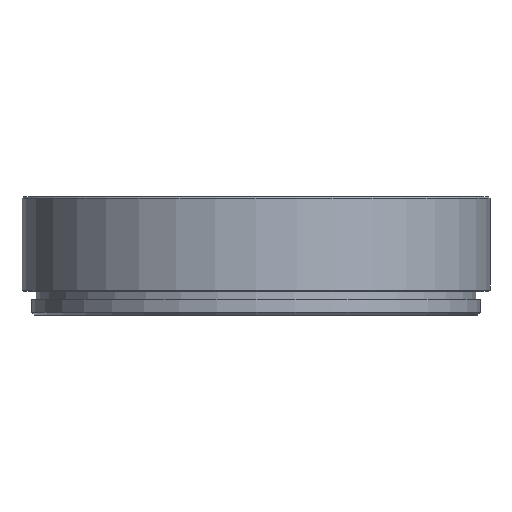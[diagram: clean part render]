
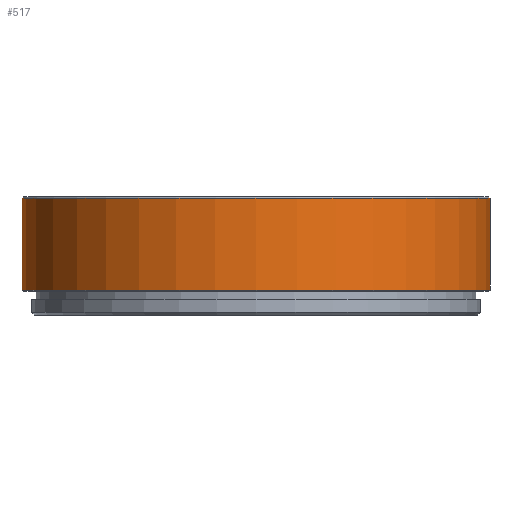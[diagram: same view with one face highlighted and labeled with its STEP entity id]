
A CAD part, front view. The second image highlights one B-rep face of the part: STEP entity #517.
In plain terms, the highlighted cylindrical face has radius 49.5 mm (diameter 99 mm), a partial arc.
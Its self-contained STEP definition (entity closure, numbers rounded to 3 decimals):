
#39 = DIRECTION ( 'NONE',  ( 1., 0., 0. ) ) ;
#42 = CYLINDRICAL_SURFACE ( 'NONE', #615, 49.5 ) ;
#67 = VECTOR ( 'NONE', #232, 1000. ) ;
#110 = CARTESIAN_POINT ( 'NONE',  ( 0., 0., 19.7 ) ) ;
#112 = CARTESIAN_POINT ( 'NONE',  ( -49.5, 0., 0.3 ) ) ;
#125 = EDGE_CURVE ( 'NONE', #439, #294, #198, .T. ) ;
#141 = DIRECTION ( 'NONE',  ( -1., 0., 0. ) ) ;
#181 = AXIS2_PLACEMENT_3D ( 'NONE', #525, #324, #39 ) ;
#184 = ORIENTED_EDGE ( 'NONE', *, *, #125, .T. ) ;
#198 = CIRCLE ( 'NONE', #710, 49.5 ) ;
#220 = LINE ( 'NONE', #364, #67 ) ;
#230 = FACE_OUTER_BOUND ( 'NONE', #369, .T. ) ;
#232 = DIRECTION ( 'NONE',  ( 0., 0., 1. ) ) ;
#238 = ORIENTED_EDGE ( 'NONE', *, *, #547, .T. ) ;
#279 = DIRECTION ( 'NONE',  ( 1., 0., 0. ) ) ;
#294 = VERTEX_POINT ( 'NONE', #769 ) ;
#298 = CARTESIAN_POINT ( 'NONE',  ( 49.5, 0., 23.049 ) ) ;
#303 = DIRECTION ( 'NONE',  ( 0., 0., -1. ) ) ;
#324 = DIRECTION ( 'NONE',  ( 0., 0., 1. ) ) ;
#344 = VECTOR ( 'NONE', #543, 1000. ) ;
#364 = CARTESIAN_POINT ( 'NONE',  ( -49.5, 0., 23.049 ) ) ;
#369 = EDGE_LOOP ( 'NONE', ( #808, #598, #238, #184 ) ) ;
#439 = VERTEX_POINT ( 'NONE', #686 ) ;
#507 = LINE ( 'NONE', #298, #344 ) ;
#517 = ADVANCED_FACE ( 'NONE', ( #230 ), #42, .T. ) ;
#525 = CARTESIAN_POINT ( 'NONE',  ( 0., 0., 0.3 ) ) ;
#543 = DIRECTION ( 'NONE',  ( 0., 0., 1. ) ) ;
#547 = EDGE_CURVE ( 'NONE', #728, #439, #507, .T. ) ;
#598 = ORIENTED_EDGE ( 'NONE', *, *, #663, .T. ) ;
#606 = CIRCLE ( 'NONE', #181, 49.5 ) ;
#615 = AXIS2_PLACEMENT_3D ( 'NONE', #775, #708, #279 ) ;
#663 = EDGE_CURVE ( 'NONE', #816, #728, #606, .T. ) ;
#670 = CARTESIAN_POINT ( 'NONE',  ( 49.5, 0., 0.3 ) ) ;
#686 = CARTESIAN_POINT ( 'NONE',  ( 49.5, 0., 19.7 ) ) ;
#708 = DIRECTION ( 'NONE',  ( 0., 0., 1. ) ) ;
#710 = AXIS2_PLACEMENT_3D ( 'NONE', #110, #303, #141 ) ;
#728 = VERTEX_POINT ( 'NONE', #670 ) ;
#765 = EDGE_CURVE ( 'NONE', #816, #294, #220, .T. ) ;
#769 = CARTESIAN_POINT ( 'NONE',  ( -49.5, 0., 19.7 ) ) ;
#775 = CARTESIAN_POINT ( 'NONE',  ( 0., 0., 23.049 ) ) ;
#808 = ORIENTED_EDGE ( 'NONE', *, *, #765, .F. ) ;
#816 = VERTEX_POINT ( 'NONE', #112 ) ;
